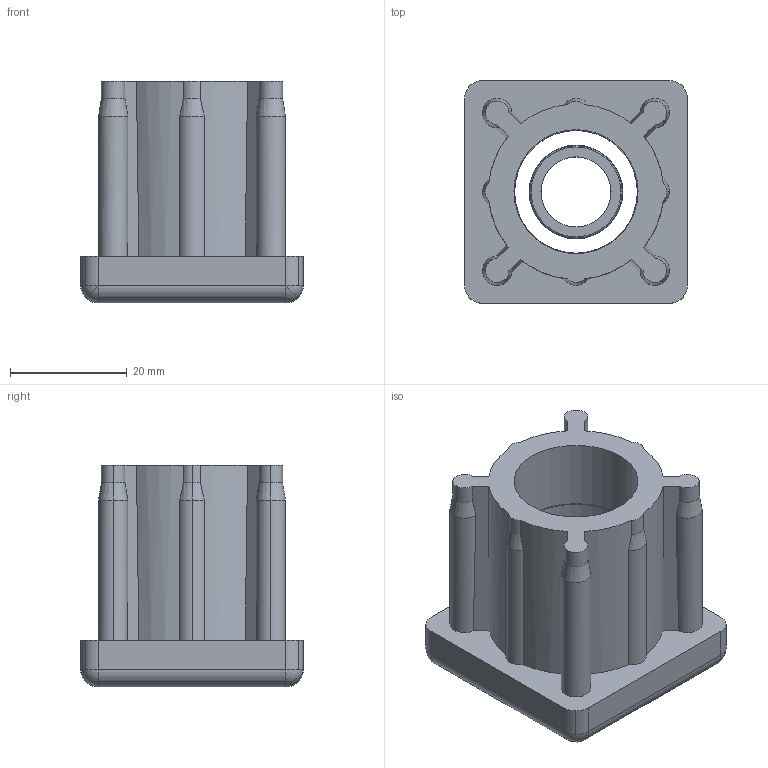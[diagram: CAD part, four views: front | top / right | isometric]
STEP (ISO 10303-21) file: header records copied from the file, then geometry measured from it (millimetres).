
FILE_DESCRIPTION (( 'STEP AP214' ), '1' );
FILE_NAME ('42006860512.STEP', '2020-02-26T11:36:06', ( '' ), ( '' ), 'SwSTEP 2.0', 'SolidWorks 2018', '' );
FILE_SCHEMA (( 'AUTOMOTIVE_DESIGN' ));
Length unit declared in the file: millimetre
Products named in the file (4): Component1.stp; 42006860512; BC_M12.stp; 42006860512.stp
Assembly tree (3 placements, depth 3):
  42006860512
    42006860512.stp
      Component1.stp
      BC_M12.stp
Bounding box: 38.1 x 38.1 x 38 mm (x, y, z)
Volume: 21222.3 mm3; surface area: 11319.5 mm2
Topology: 2 solids, 2 shells, 121 faces, 296 edges, 182 vertices
Faces by surface type: cylinder 68, cone 24, plane 19, sphere 8, torus 2
Entity records: 3770 total; most frequent: CARTESIAN_POINT 714, DIRECTION 680, ORIENTED_EDGE 592, EDGE_CURVE 296, AXIS2_PLACEMENT_3D 288, VERTEX_POINT 182, CIRCLE 160, EDGE_LOOP 128
